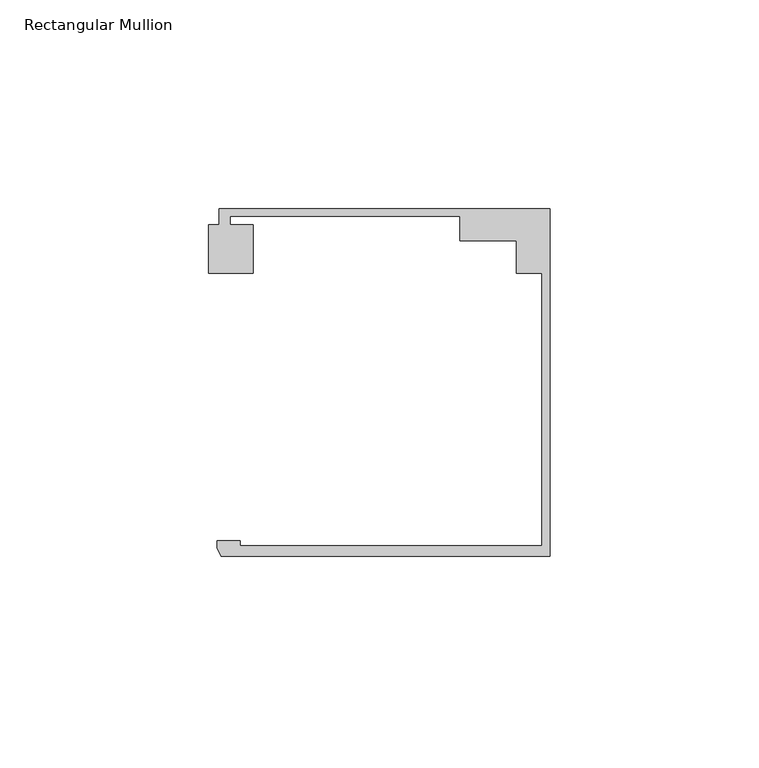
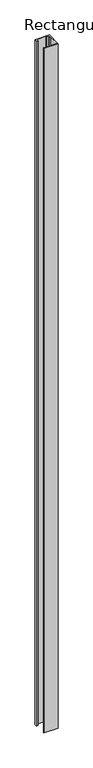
"""IFC4 building model written with IfcOpenShell, lengths in millimetres: member geometry, Rectangular Mullion : Danpal_Airpt_End-Mullion_B1."""

from ifc_helpers import new_model, si_unit, frame, origin, place, context, project, spatial, polyline, outline, extrude, source, transform, mapped, element, save


def rectangular_mullion_0d149754(model_context):
    return source(origin(), model_context, "Body", "SweptSolid", [
        extrude(outline(polyline([(-74.2474668, -74.9940824), (-2.0000001, -74.9940824), (-2.0000001, -9.7188964), (-8.1, -9.7188964), (-8.1, -1.8818054), (-21.5478166, -1.8818054), (-21.5478166, 4.0051512), (-76.6478166, 4.0051512), (-76.6478166, 2.0051513), (-71.1433532, 2.0051513), (-71.1433532, -9.6875514), (-81.8592324, -9.6875514), (-81.8592324, 2.0051513), (-79.3474874, 2.0051513), (-79.3474874, 5.8051514), (0.0, 5.8051514), (0.0, -77.4940825), (-78.8515009, -77.4940825), (-79.7784606, -75.5472671), (-79.7784606, -73.6940824), (-74.2474668, -73.6940824), (-74.2474668, -74.9940824)])), frame((0.0, 0.0, -4000.0), z_axis=(0.0, 0.0, 1.0), x_axis=(1.0, 0.0, 0.0)), (0.0, 0.0, 1.0), 4000.0),
    ])


if __name__ == "__main__":
    model = new_model("IFC4")
    model_context = context("Model", 3, world=origin())
    ifc_project = project(units=[si_unit("LENGTHUNIT", "METRE", prefix="MILLI")], contexts=[model_context])
    site = spatial("IfcSite", under=ifc_project)
    building = spatial("IfcBuilding", under=site)
    placement = place(None, origin())
    rectangular_mullion_shape = rectangular_mullion_0d149754(model_context)
    element("IfcMember", 1, ObjectType="Rectangular Mullion : Danpal_Airpt_End-Mullion_B1", at=placement, inside=building, context=model_context, shape_type="MappedRepresentation", body=[
        mapped(rectangular_mullion_shape, transform((0.0, 0.0, 0.0), x_axis=(1.0, 0.0, 0.0), y_axis=(0.0, 1.0, 0.0), z_axis=(0.0, 0.0, 1.0))),
    ])
    save(model, "model.ifc")
